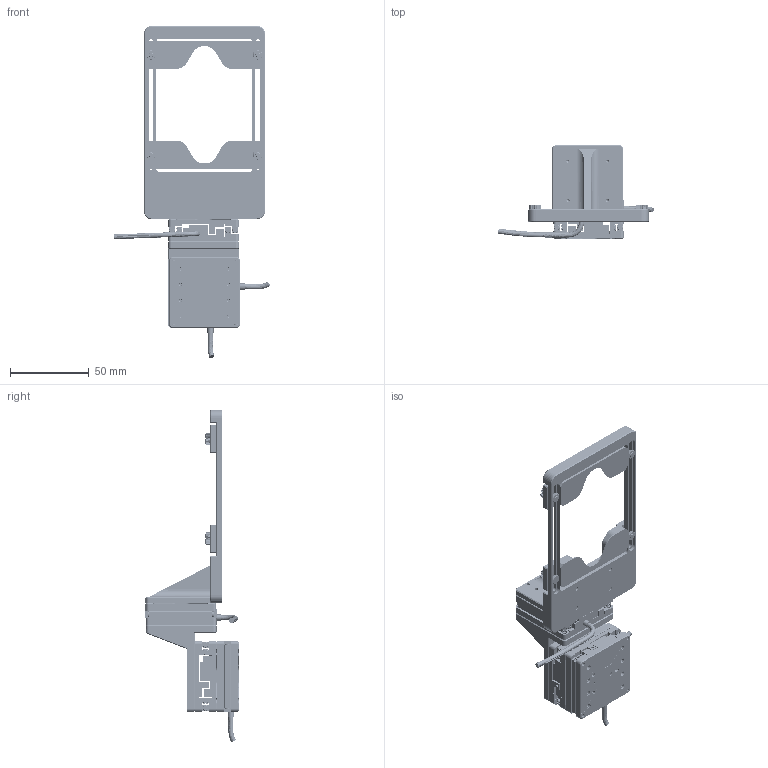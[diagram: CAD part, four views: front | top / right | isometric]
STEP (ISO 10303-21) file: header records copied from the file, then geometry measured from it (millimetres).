
FILE_DESCRIPTION (( 'STEP AP214' ), '1' );
FILE_NAME ('Sample holder.STEP', '2021-10-08T10:55:51', ( '' ), ( '' ), 'SwSTEP 2.0', 'SolidWorks 2016', '' );
FILE_SCHEMA (( 'AUTOMOTIVE_DESIGN' ));
Length unit declared in the file: millimetre
Products named in the file (17): Tryckstiftholder; Sample holder; CSHCS-SUS-M3-7_CSHCS-SUS-M3-7; Cable; Top; BackConnector; Frame; Cable_2; Sample holder Bracket; _SV1040- 10Z Body_4; Holder; Tryckskruvholder; CSMKNE-BRN-M3-8_CSMKNE-BRN-M3-8; z-axis-bracket_2; Base; FrontConnector; HNT3-ST-M3_HNT3-ST-M3
Assembly tree (50 placements, depth 2):
  Sample holder
    Base  x3
    Top  x3
    z-axis-bracket_2
    _SV1040- 10Z Body_4  x12
    BackConnector  x3
    FrontConnector  x3
    Tryckstiftholder  x3
    Tryckskruvholder  x3
    Cable  x2
    Frame
    Holder  x2
    HNT3-ST-M3_HNT3-ST-M3  x4
    CSMKNE-BRN-M3-8_CSMKNE-BRN-M3-8  x4
    Sample holder Bracket
    Cable_2
    CSHCS-SUS-M3-7_CSHCS-SUS-M3-7  x4
Bounding box: 99.24 x 59.21 x 211.23 mm (x, y, z)
Volume: 121836 mm3; surface area: 92550.5 mm2
Topology: 50 solids, 50 shells, 4706 faces, 12413 edges, 7847 vertices
Faces by surface type: plane 2051, cylinder 1873, cone 758, sphere 16, bspline 8
Entity records: 46628 total; most frequent: CARTESIAN_POINT 9663, DIRECTION 7649, ORIENTED_EDGE 7132, EDGE_CURVE 3566, AXIS2_PLACEMENT_3D 2828, VERTEX_POINT 2294, VECTOR 1993, LINE 1993
